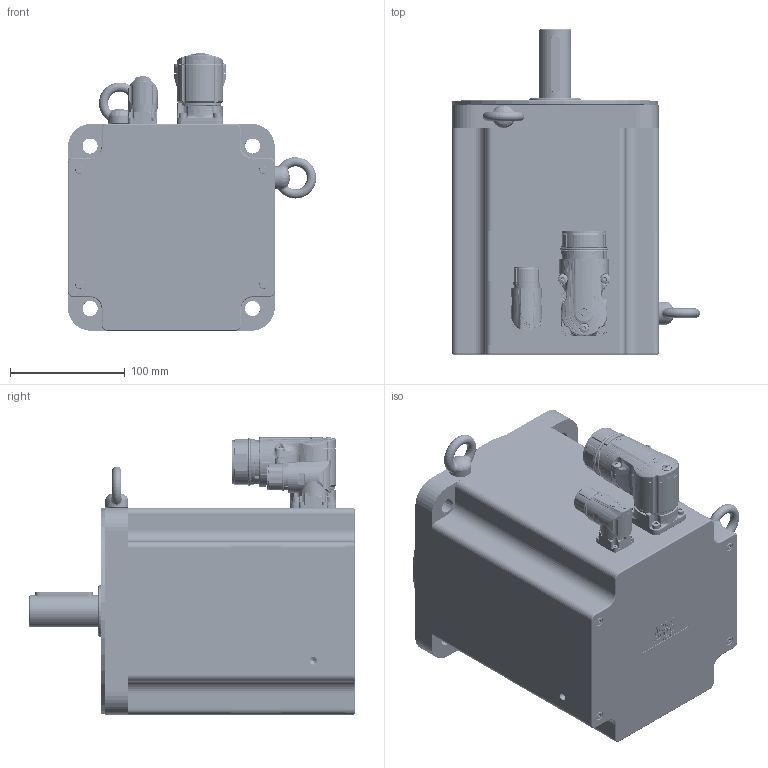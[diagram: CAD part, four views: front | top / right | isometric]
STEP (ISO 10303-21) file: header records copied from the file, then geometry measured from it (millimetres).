
FILE_DESCRIPTION(/* description */ ('Unknown'),/* implementation_level */ '2;1');
FILE_NAME(/* name */ 'TC4-180.7A.X X.X.3.XX.1.X.G3.00.00 Q0B809',/* time_stamp */ '2026-03-10T15:01:46+01:00',/* author */ ('Unknown'),/* organization */ ('Unknown'),/* preprocessor_version */ 'ST-DEVELOPER v19.4',/* originating_system */ 'Solid Edge',/* authorisation */ 'Unknown');
FILE_SCHEMA (('AUTOMOTIVE_DESIGN {1 0 10303 214 3 1 1}'));
Products named in the file (18): Q0B809 7A FRENO VUOTO; 005256003057; Albero TC4-180 7A FRENO pred ECI1119; 005911000205; 003103040231; 003155002231; Coperchio campana TC4-180; 005113000610; 005119001104; 005911000185; 007117000452; 005911000479; 005321000010; 005911000180; 003251040631; 005308000115; Corpo TC4-180 7A V7; 007117000454
Assembly tree (34 placements, depth 2):
  Q0B809 7A FRENO VUOTO
    005256003057
    Albero TC4-180 7A FRENO pred ECI1119
    005911000205  x4
    003103040231
    003155002231
    Coperchio campana TC4-180
    005113000610
    005119001104
    005911000185  x4
    007117000452
    005911000479  x8
    005321000010  x2
    005911000180  x4
    003251040631
    005308000115
    Corpo TC4-180 7A V7
    007117000454
Bounding box: 215.98 x 283 x 241.45 mm (x, y, z)
Volume: 3013173.6 mm3; surface area: 781699.2 mm2
Topology: 35 solids, 62 shells, 3647 faces, 9397 edges, 5925 vertices
Faces by surface type: plane 1307, cylinder 878, bspline 636, cone 379, torus 313, sphere 134
Full cylindrical faces by diameter (mm): 0.5 x1, 1 x17, 1.2 x17, 2 x4, 2.013 x8, 2.459 x2, 2.5 x4, 3 x5, 3.242 x16, 3.6 x5, 4 x12, 4.134 x16, 4.2 x8, 4.5 x9, 4.7 x4, 4.917 x6, 5 x9, 5.4 x1, 5.5 x9, 5.9 x1, 6 x1, 6.647 x14, 7 x10, 8 x11, 8.376 x2, 9 x4, 10 x3, 14 x4, 15 x1, 15.2 x1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
Entity records: 160250 total; most frequent: CARTESIAN_POINT 63728, ORIENTED_EDGE 15770, DIRECTION 14236, EDGE_CURVE 8093, AXIS2_PLACEMENT_3D 5564, VERTEX_POINT 5422, FACE_BOUND 4250, EDGE_LOOP 4220
